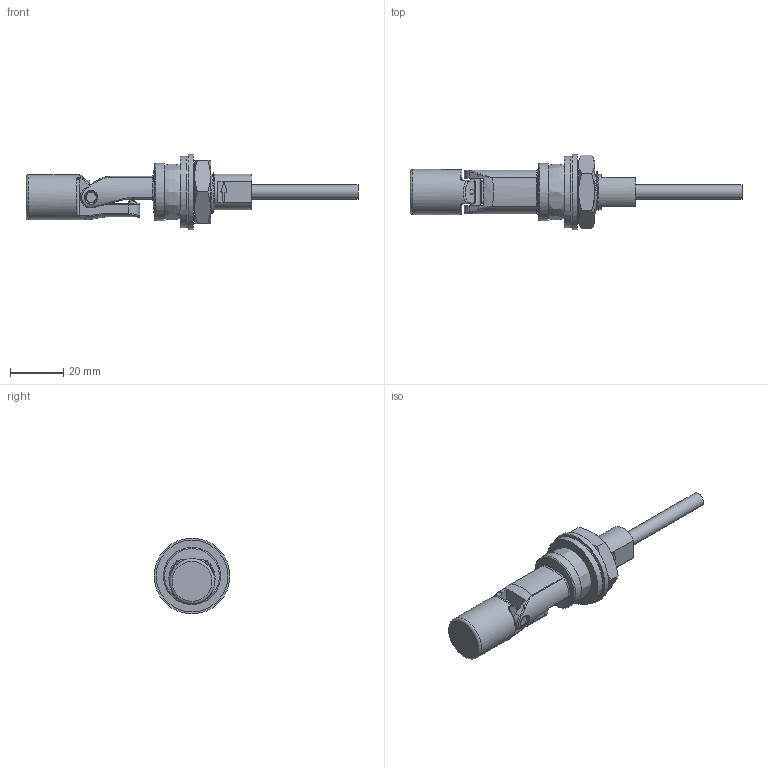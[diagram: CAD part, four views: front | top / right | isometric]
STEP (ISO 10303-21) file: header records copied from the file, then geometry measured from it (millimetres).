
FILE_DESCRIPTION(/* description */ ('Katalogmodell Elobau'),/* implementation_level */ '2;1');
FILE_NAME(/* name */ '204KS___D____A.stp',/* time_stamp */ '2014-10-01T08:07:06+02:00',/* author */ ('Elobau GmbH & Co. KG'),/* organization */ ('Elobau GmbH & Co. KG'),/* preprocessor_version */ 'ST-DEVELOPER v15',/* originating_system */ 'SIEMENS PLM Software NX 8.5',/* authorisation */ '');
FILE_SCHEMA (('AUTOMOTIVE_DESIGN { 1 0 10303 214 3 1 1 1 }'));
Length unit declared in the file: millimetre
Products named in the file (1): 204KS...D..._A
Bounding box: 125 x 28.5 x 28.5 mm (x, y, z)
Volume: 21233.7 mm3; surface area: 8408.8 mm2
Topology: 2 solids, 2 shells, 192 faces, 470 edges, 292 vertices
Faces by surface type: bspline 59, cylinder 55, plane 51, cone 16, torus 9, sphere 2
Full cylindrical faces by diameter (mm): 3.8 x1, 5.4 x1, 13.55 x1, 17 x1, 21.5 x1, 27 x1, 28.5 x1
Entity records: 10564 total; most frequent: CARTESIAN_POINT 6614, ORIENTED_EDGE 894, DIRECTION 673, EDGE_CURVE 447, VERTEX_POINT 284, AXIS2_PLACEMENT_3D 273, EDGE_LOOP 219, ADVANCED_FACE 191
